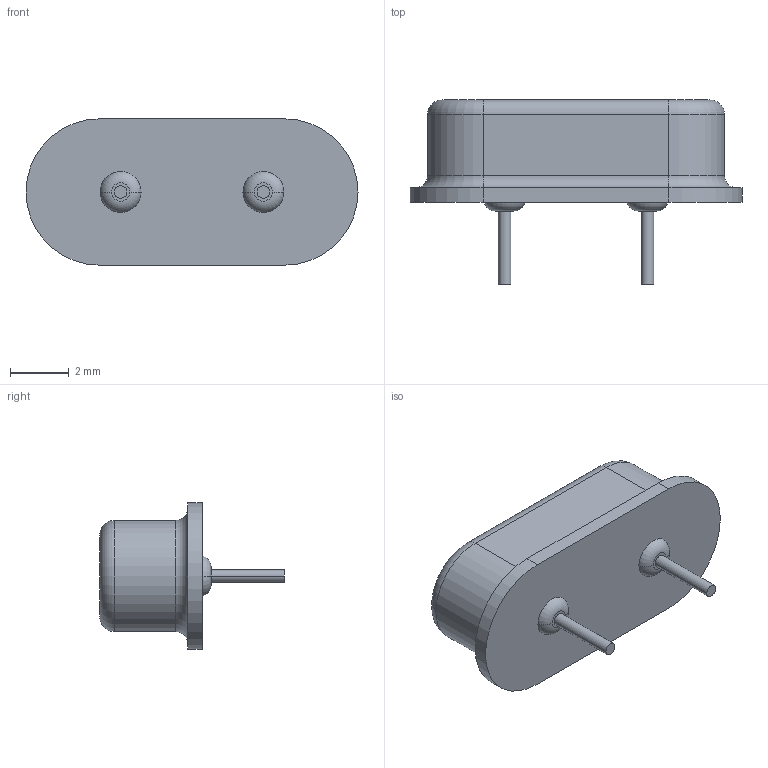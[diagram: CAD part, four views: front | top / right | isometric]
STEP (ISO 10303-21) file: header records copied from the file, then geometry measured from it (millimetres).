
FILE_DESCRIPTION (( 'STEP AP214' ), '1' );
FILE_NAME ('HC-49S.STEP', '2013-04-02T12:13:01', ( 'Tester2' ), ( '' ), 'SwSTEP 2.0', 'SolidWorks 2012', '' );
FILE_SCHEMA (( 'AUTOMOTIVE_DESIGN' ));
Length unit declared in the file: millimetre
Products named in the file (1): HC-49S
Bounding box: 11.35 x 6.3 x 5 mm (x, y, z)
Volume: 133.1 mm3; surface area: 189.2 mm2
Topology: 1 solids, 1 shells, 31 faces, 64 edges, 40 vertices
Faces by surface type: cylinder 12, plane 11, torus 8
Entity records: 868 total; most frequent: DIRECTION 168, CARTESIAN_POINT 136, ORIENTED_EDGE 128, AXIS2_PLACEMENT_3D 72, EDGE_CURVE 64, CIRCLE 40, VERTEX_POINT 40, EDGE_LOOP 36
